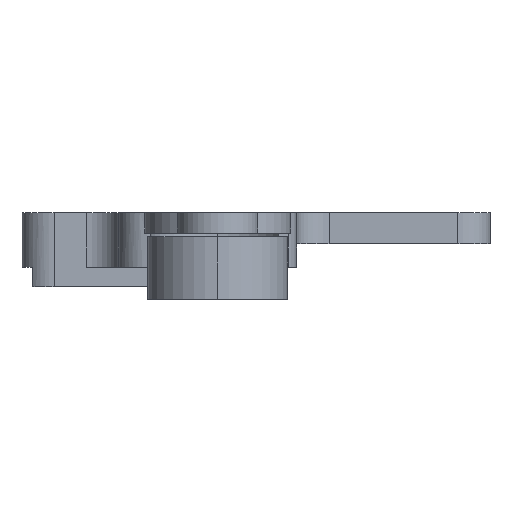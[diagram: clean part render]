
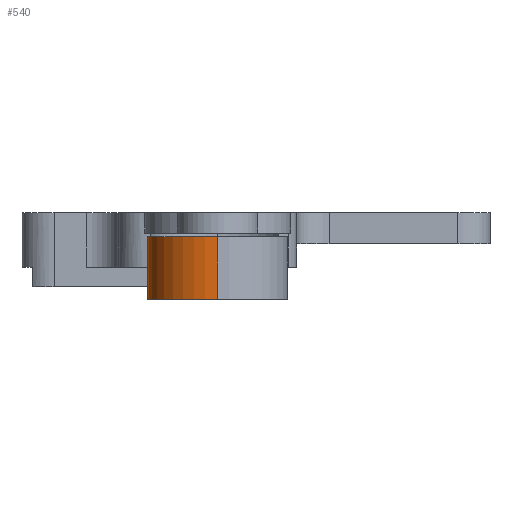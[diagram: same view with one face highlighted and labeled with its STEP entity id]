
A CAD part, left-side view. The second image highlights one B-rep face of the part: STEP entity #540.
In plain terms, the highlighted cylindrical face has radius 4.35 mm (diameter 8.7 mm), a partial arc.
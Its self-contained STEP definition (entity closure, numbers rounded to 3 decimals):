
#35 = VECTOR ( 'NONE', #1590, 1000. ) ;
#199 = LINE ( 'NONE', #3515, #514 ) ;
#240 = DIRECTION ( 'NONE',  ( -1., 0., 0. ) ) ;
#326 = FACE_OUTER_BOUND ( 'NONE', #1795, .T. ) ;
#337 = DIRECTION ( 'NONE',  ( 0., 0., -1. ) ) ;
#514 = VECTOR ( 'NONE', #2849, 1000. ) ;
#540 = ADVANCED_FACE ( 'NONE', ( #326 ), #3685, .T. ) ;
#561 = CARTESIAN_POINT ( 'NONE',  ( -29.1, -8.145, -2. ) ) ;
#822 = EDGE_CURVE ( 'NONE', #3678, #3629, #4099, .T. ) ;
#831 = ORIENTED_EDGE ( 'NONE', *, *, #2152, .T. ) ;
#977 = VERTEX_POINT ( 'NONE', #3599 ) ;
#1392 = ORIENTED_EDGE ( 'NONE', *, *, #3964, .T. ) ;
#1400 = CARTESIAN_POINT ( 'NONE',  ( -33.45, -8.145, -2. ) ) ;
#1528 = CARTESIAN_POINT ( 'NONE',  ( -29.1, -3.795, 12.591 ) ) ;
#1576 = CARTESIAN_POINT ( 'NONE',  ( -29.1, -3.795, -2. ) ) ;
#1590 = DIRECTION ( 'NONE',  ( 0., 0., -1. ) ) ;
#1795 = EDGE_LOOP ( 'NONE', ( #2629, #831, #1392, #2957 ) ) ;
#1870 = AXIS2_PLACEMENT_3D ( 'NONE', #561, #3221, #240 ) ;
#2152 = EDGE_CURVE ( 'NONE', #2925, #977, #3728, .T. ) ;
#2290 = DIRECTION ( 'NONE',  ( 1., 0., 0. ) ) ;
#2608 = CARTESIAN_POINT ( 'NONE',  ( -29.1, -8.145, 12.591 ) ) ;
#2629 = ORIENTED_EDGE ( 'NONE', *, *, #3920, .F. ) ;
#2677 = AXIS2_PLACEMENT_3D ( 'NONE', #2608, #2975, #2937 ) ;
#2849 = DIRECTION ( 'NONE',  ( 0., 0., -1. ) ) ;
#2925 = VERTEX_POINT ( 'NONE', #4248 ) ;
#2937 = DIRECTION ( 'NONE',  ( -1., 0., 0. ) ) ;
#2957 = ORIENTED_EDGE ( 'NONE', *, *, #822, .F. ) ;
#2975 = DIRECTION ( 'NONE',  ( 0., 0., -1. ) ) ;
#3032 = CARTESIAN_POINT ( 'NONE',  ( -29.1, -8.145, 1.9 ) ) ;
#3204 = LINE ( 'NONE', #1528, #35 ) ;
#3221 = DIRECTION ( 'NONE',  ( 0., 0., -1. ) ) ;
#3515 = CARTESIAN_POINT ( 'NONE',  ( -33.45, -8.145, 12.591 ) ) ;
#3599 = CARTESIAN_POINT ( 'NONE',  ( -29.1, -3.795, 1.9 ) ) ;
#3629 = VERTEX_POINT ( 'NONE', #1576 ) ;
#3678 = VERTEX_POINT ( 'NONE', #1400 ) ;
#3685 = CYLINDRICAL_SURFACE ( 'NONE', #2677, 4.35 ) ;
#3728 = CIRCLE ( 'NONE', #4294, 4.35 ) ;
#3920 = EDGE_CURVE ( 'NONE', #2925, #3678, #199, .T. ) ;
#3964 = EDGE_CURVE ( 'NONE', #977, #3629, #3204, .T. ) ;
#4099 = CIRCLE ( 'NONE', #1870, 4.35 ) ;
#4248 = CARTESIAN_POINT ( 'NONE',  ( -33.45, -8.145, 1.9 ) ) ;
#4294 = AXIS2_PLACEMENT_3D ( 'NONE', #3032, #337, #2290 ) ;
